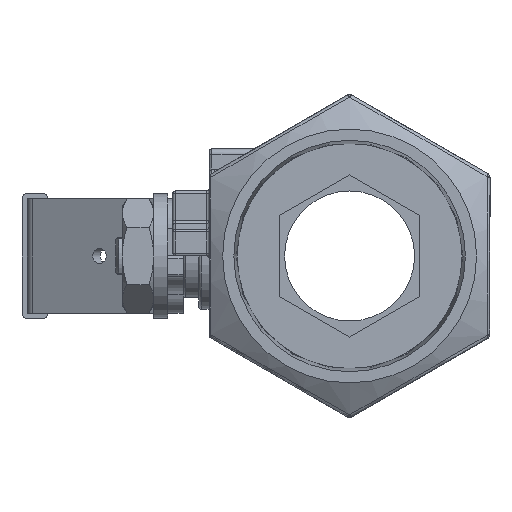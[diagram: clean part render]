
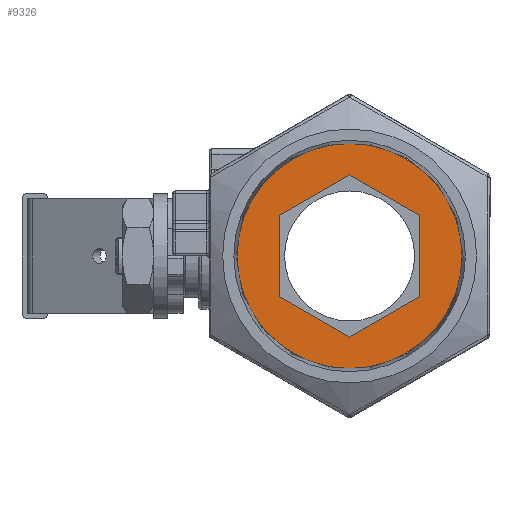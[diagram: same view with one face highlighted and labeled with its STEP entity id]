
A CAD part, left-side view. The second image highlights one B-rep face of the part: STEP entity #9326.
In plain terms, the highlighted planar face has unit normal (-1, 0, 0).
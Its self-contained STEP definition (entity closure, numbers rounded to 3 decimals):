
#8998=CARTESIAN_POINT('',(-23.,13.5,-7.794));
#8999=VERTEX_POINT('',#8998);
#9006=CARTESIAN_POINT('',(-23.,0.,-15.588));
#9007=VERTEX_POINT('',#9006);
#9008=CARTESIAN_POINT('',(-23.,0.,-15.588));
#9009=DIRECTION('',(0.0,0.866,0.5));
#9010=VECTOR('',#9009,15.588);
#9011=LINE('',#9008,#9010);
#9012=EDGE_CURVE('',#9007,#8999,#9011,.T.);
#9037=CARTESIAN_POINT('',(-23.,-13.5,-7.794));
#9038=VERTEX_POINT('',#9037);
#9039=CARTESIAN_POINT('',(-23.,-13.5,-7.794));
#9040=DIRECTION('',(0.0,0.866,-0.5));
#9041=VECTOR('',#9040,15.588);
#9042=LINE('',#9039,#9041);
#9043=EDGE_CURVE('',#9038,#9007,#9042,.T.);
#9068=CARTESIAN_POINT('',(-23.,-13.5,7.794));
#9069=VERTEX_POINT('',#9068);
#9070=CARTESIAN_POINT('',(-23.,-13.5,7.794));
#9071=DIRECTION('',(0.0,0.0,-1.0));
#9072=VECTOR('',#9071,15.588);
#9073=LINE('',#9070,#9072);
#9074=EDGE_CURVE('',#9069,#9038,#9073,.T.);
#9099=CARTESIAN_POINT('',(-23.,0.,15.588));
#9100=VERTEX_POINT('',#9099);
#9101=CARTESIAN_POINT('',(-23.,0.,15.588));
#9102=DIRECTION('',(0.0,-0.866,-0.5));
#9103=VECTOR('',#9102,15.588);
#9104=LINE('',#9101,#9103);
#9105=EDGE_CURVE('',#9100,#9069,#9104,.T.);
#9130=CARTESIAN_POINT('',(-23.,13.5,7.794));
#9131=VERTEX_POINT('',#9130);
#9132=CARTESIAN_POINT('',(-23.,13.5,7.794));
#9133=DIRECTION('',(0.0,-0.866,0.5));
#9134=VECTOR('',#9133,15.588);
#9135=LINE('',#9132,#9134);
#9136=EDGE_CURVE('',#9131,#9100,#9135,.T.);
#9159=CARTESIAN_POINT('',(-23.,13.5,-7.794));
#9160=DIRECTION('',(0.0,0.0,1.0));
#9161=VECTOR('',#9160,15.588);
#9162=LINE('',#9159,#9161);
#9163=EDGE_CURVE('',#8999,#9131,#9162,.T.);
#9287=CARTESIAN_POINT('',(-23.,-21.628,0.));
#9288=VERTEX_POINT('',#9287);
#9289=CARTESIAN_POINT('',(-23.,0.,0.));
#9290=DIRECTION('',(-1.0,0.0,0.0));
#9291=DIRECTION('',(0.0,-1.0,0.0));
#9292=AXIS2_PLACEMENT_3D('',#9289,#9290,#9291);
#9293=CIRCLE('',#9292,21.628);
#9294=EDGE_CURVE('',#9288,#9288,#9293,.T.);
#9310=CARTESIAN_POINT('',(-23.,0.,0.));
#9311=DIRECTION('',(-1.0,0.0,0.0));
#9312=DIRECTION('',(0.0,-1.0,0.0));
#9313=AXIS2_PLACEMENT_3D('',#9310,#9311,#9312);
#9314=PLANE('',#9313);
#9315=ORIENTED_EDGE('',*,*,#9294,.T.);
#9316=EDGE_LOOP('',(#9315));
#9317=FACE_OUTER_BOUND('',#9316,.T.);
#9318=ORIENTED_EDGE('',*,*,#9012,.T.);
#9319=ORIENTED_EDGE('',*,*,#9163,.T.);
#9320=ORIENTED_EDGE('',*,*,#9136,.T.);
#9321=ORIENTED_EDGE('',*,*,#9105,.T.);
#9322=ORIENTED_EDGE('',*,*,#9074,.T.);
#9323=ORIENTED_EDGE('',*,*,#9043,.T.);
#9324=EDGE_LOOP('',(#9318,#9319,#9320,#9321,#9322,#9323));
#9325=FACE_BOUND('',#9324,.T.);
#9326=ADVANCED_FACE('',(#9317,#9325),#9314,.T.);
